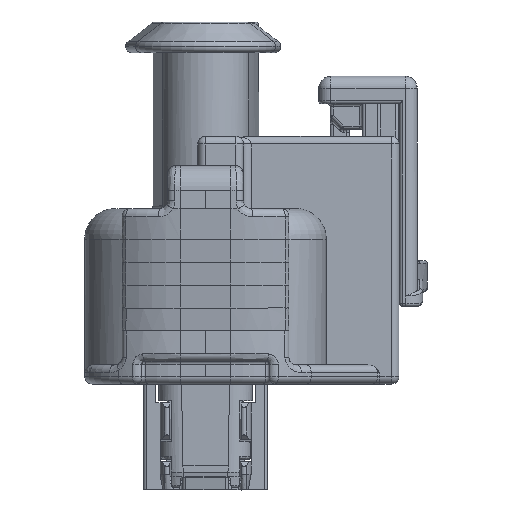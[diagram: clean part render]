
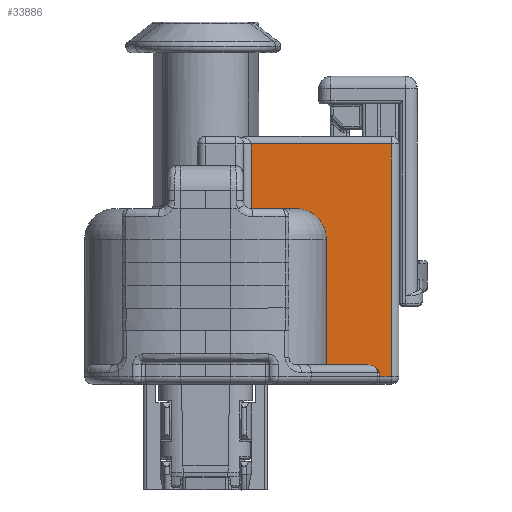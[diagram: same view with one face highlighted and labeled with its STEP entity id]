
A CAD part, left-side view. The second image highlights one B-rep face of the part: STEP entity #33886.
In plain terms, the highlighted planar face has unit normal (-1, 0, 0).
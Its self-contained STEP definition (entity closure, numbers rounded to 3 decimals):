
#851=B_SPLINE_CURVE_WITH_KNOTS('',5,(#68724,#68725,#68726,#68727,#68728,
#68729,#68730,#68731,#68732,#68733,#68734,#68735),.UNSPECIFIED.,.F.,.F.,
(6,3,3,6),(0.,0.082,0.177,1.),.UNSPECIFIED.);
#1441=PLANE('',#36683);
#2873=FACE_OUTER_BOUND('',#4883,.T.);
#4883=EDGE_LOOP('',(#27080,#27081,#27082,#27083,#27084,#27085,#27086,#27087,
#27088,#27089,#27090));
#6081=ELLIPSE('',#36684,2.,2.);
#6082=ELLIPSE('',#36685,0.688,0.5);
#9105=LINE('',#67435,#12100);
#9292=LINE('',#68711,#12287);
#9293=LINE('',#68714,#12288);
#9294=LINE('',#68718,#12289);
#9295=LINE('',#68720,#12290);
#9296=LINE('',#68737,#12291);
#9297=LINE('',#68739,#12292);
#9298=LINE('',#68740,#12293);
#12100=VECTOR('',#43031,1.);
#12287=VECTOR('',#43570,1.);
#12288=VECTOR('',#43573,1.);
#12289=VECTOR('',#43576,1.);
#12290=VECTOR('',#43577,1.);
#12291=VECTOR('',#43580,1.);
#12292=VECTOR('',#43581,1.);
#12293=VECTOR('',#43582,1.);
#15250=VERTEX_POINT('',#67383);
#15251=VERTEX_POINT('',#67434);
#15452=VERTEX_POINT('',#68709);
#15453=VERTEX_POINT('',#68713);
#15454=VERTEX_POINT('',#68715);
#15455=VERTEX_POINT('',#68717);
#15456=VERTEX_POINT('',#68719);
#15457=VERTEX_POINT('',#68721);
#15458=VERTEX_POINT('',#68723);
#15459=VERTEX_POINT('',#68736);
#15460=VERTEX_POINT('',#68738);
#19326=EDGE_CURVE('',#15251,#15250,#9105,.T.);
#19622=EDGE_CURVE('',#15250,#15452,#9292,.T.);
#19623=EDGE_CURVE('',#15453,#15452,#9293,.T.);
#19624=EDGE_CURVE('',#15454,#15453,#6081,.T.);
#19625=EDGE_CURVE('',#15455,#15454,#9294,.T.);
#19626=EDGE_CURVE('',#15455,#15456,#9295,.T.);
#19627=EDGE_CURVE('',#15457,#15456,#6082,.T.);
#19628=EDGE_CURVE('',#15458,#15457,#851,.T.);
#19629=EDGE_CURVE('',#15458,#15459,#9296,.T.);
#19630=EDGE_CURVE('',#15460,#15459,#9297,.T.);
#19631=EDGE_CURVE('',#15460,#15251,#9298,.T.);
#27080=ORIENTED_EDGE('',*,*,#19623,.F.);
#27081=ORIENTED_EDGE('',*,*,#19624,.F.);
#27082=ORIENTED_EDGE('',*,*,#19625,.F.);
#27083=ORIENTED_EDGE('',*,*,#19626,.T.);
#27084=ORIENTED_EDGE('',*,*,#19627,.F.);
#27085=ORIENTED_EDGE('',*,*,#19628,.F.);
#27086=ORIENTED_EDGE('',*,*,#19629,.T.);
#27087=ORIENTED_EDGE('',*,*,#19630,.F.);
#27088=ORIENTED_EDGE('',*,*,#19631,.T.);
#27089=ORIENTED_EDGE('',*,*,#19326,.T.);
#27090=ORIENTED_EDGE('',*,*,#19622,.T.);
#33886=ADVANCED_FACE('',(#2873),#1441,.T.);
#36683=AXIS2_PLACEMENT_3D('',#68712,#43571,#43572);
#36684=AXIS2_PLACEMENT_3D('',#68716,#43574,#43575);
#36685=AXIS2_PLACEMENT_3D('',#68722,#43578,#43579);
#43031=DIRECTION('',(0.,1.,0.));
#43570=DIRECTION('',(0.,0.,-1.));
#43571=DIRECTION('center_axis',(-1.,0.,0.));
#43572=DIRECTION('ref_axis',(0.,0.,-1.));
#43573=DIRECTION('',(0.,1.,0.));
#43574=DIRECTION('center_axis',(-1.,0.,0.));
#43575=DIRECTION('ref_axis',(0.,0.949,-0.316));
#43576=DIRECTION('',(0.,0.,1.));
#43577=DIRECTION('',(0.,-1.,0.));
#43578=DIRECTION('center_axis',(-1.,0.,0.));
#43579=DIRECTION('ref_axis',(0.,1.,0.));
#43580=DIRECTION('',(0.,0.,-1.));
#43581=DIRECTION('',(0.,1.,0.));
#43582=DIRECTION('',(0.,0.,1.));
#67383=CARTESIAN_POINT('',(-2.15,-2.975,22.625));
#67434=CARTESIAN_POINT('',(-2.15,-12.15,22.625));
#67435=CARTESIAN_POINT('',(-2.15,-7.442,22.625));
#68709=CARTESIAN_POINT('',(-2.15,-2.975,18.4));
#68711=CARTESIAN_POINT('',(-2.15,-2.975,15.025));
#68712=CARTESIAN_POINT('Origin',(-2.15,0.5,6.925));
#68713=CARTESIAN_POINT('',(-2.15,-5.9,18.4));
#68714=CARTESIAN_POINT('',(-2.15,-4.437,18.4));
#68715=CARTESIAN_POINT('',(-2.15,-7.9,16.4));
#68716=CARTESIAN_POINT('Origin',(-2.15,-5.9,16.4));
#68717=CARTESIAN_POINT('',(-2.15,-7.9,8.175));
#68718=CARTESIAN_POINT('',(-2.15,-7.9,12.288));
#68719=CARTESIAN_POINT('',(-2.15,-10.611,8.175));
#68720=CARTESIAN_POINT('',(-2.15,-9.256,8.175));
#68721=CARTESIAN_POINT('',(-2.15,-11.174,7.963));
#68722=CARTESIAN_POINT('Origin',(-2.15,-10.611,7.675));
#68723=CARTESIAN_POINT('',(-2.15,-11.386,7.675));
#68724=CARTESIAN_POINT('Ctrl Pts',(-2.15,-11.386,7.675));
#68725=CARTESIAN_POINT('Ctrl Pts',(-2.15,-11.383,7.68));
#68726=CARTESIAN_POINT('Ctrl Pts',(-2.15,-11.38,7.684));
#68727=CARTESIAN_POINT('Ctrl Pts',(-2.15,-11.377,7.689));
#68728=CARTESIAN_POINT('Ctrl Pts',(-2.15,-11.371,7.698));
#68729=CARTESIAN_POINT('Ctrl Pts',(-2.15,-11.365,7.708));
#68730=CARTESIAN_POINT('Ctrl Pts',(-2.15,-11.362,7.713));
#68731=CARTESIAN_POINT('Ctrl Pts',(-2.15,-11.329,7.763));
#68732=CARTESIAN_POINT('Ctrl Pts',(-2.15,-11.296,7.815));
#68733=CARTESIAN_POINT('Ctrl Pts',(-2.15,-11.262,7.863));
#68734=CARTESIAN_POINT('Ctrl Pts',(-2.15,-11.222,7.913));
#68735=CARTESIAN_POINT('Ctrl Pts',(-2.15,-11.174,7.963));
#68736=CARTESIAN_POINT('',(-2.15,-11.386,7.425));
#68737=CARTESIAN_POINT('',(-2.15,-11.386,7.55));
#68738=CARTESIAN_POINT('',(-2.15,-12.15,7.425));
#68739=CARTESIAN_POINT('',(-2.15,-11.768,7.425));
#68740=CARTESIAN_POINT('',(-2.15,-12.15,15.025));
